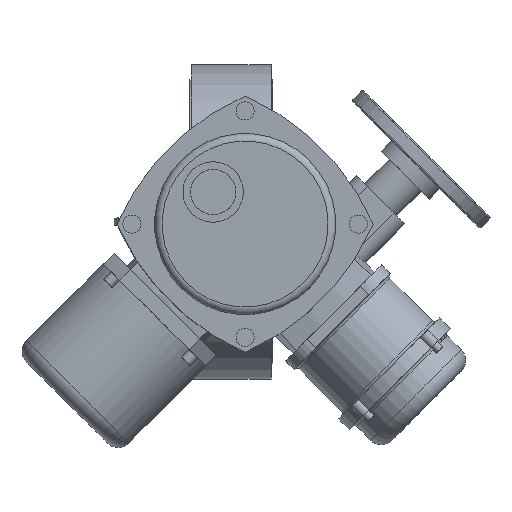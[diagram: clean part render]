
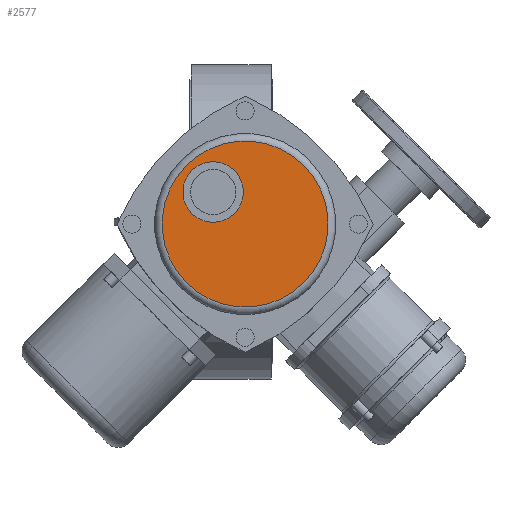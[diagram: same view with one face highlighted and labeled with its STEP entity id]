
A CAD part, top view. The second image highlights one B-rep face of the part: STEP entity #2577.
In plain terms, the highlighted planar face has unit normal (0, 0, 1).
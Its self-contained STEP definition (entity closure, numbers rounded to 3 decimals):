
#2577=ADVANCED_FACE('',(#4981,#4983),#4985,.T.);
#4981=FACE_BOUND('',#4982,.T.);
#4982=EDGE_LOOP('',(#6417));
#4983=FACE_BOUND('',#4984,.T.);
#4984=EDGE_LOOP('',(#6418));
#4985=PLANE('',#4986);
#4986=AXIS2_PLACEMENT_3D('',#4987,#4988,#4989);
#4987=CARTESIAN_POINT('',(9.192,-2.121,365.));
#4988=DIRECTION('',(0.,0.,1.));
#4989=DIRECTION('',(0.707,0.707,0.));
#6417=ORIENTED_EDGE('',*,*,#7062,.T.);
#6418=ORIENTED_EDGE('',*,*,#7123,.F.);
#7062=EDGE_CURVE('',#8116,#8116,#8117,.T.);
#7123=EDGE_CURVE('',#8208,#8208,#8209,.T.);
#8116=VERTEX_POINT('',#12912);
#8117=CIRCLE('',#12913,55.);
#8208=VERTEX_POINT('',#13169);
#8209=CIRCLE('',#13170,20.);
#12912=CARTESIAN_POINT('',(48.083,36.77,365.));
#12913=AXIS2_PLACEMENT_3D('',#12914,#12915,#12916);
#12914=CARTESIAN_POINT('',(9.192,-2.121,365.));
#12915=DIRECTION('',(0.,0.,1.));
#12916=DIRECTION('',(0.707,0.707,0.));
#13169=CARTESIAN_POINT('',(2.121,33.234,365.));
#13170=AXIS2_PLACEMENT_3D('',#13171,#13172,#13173);
#13171=CARTESIAN_POINT('',(-12.021,19.092,365.));
#13172=DIRECTION('',(0.,0.,1.));
#13173=DIRECTION('',(0.707,0.707,0.));
